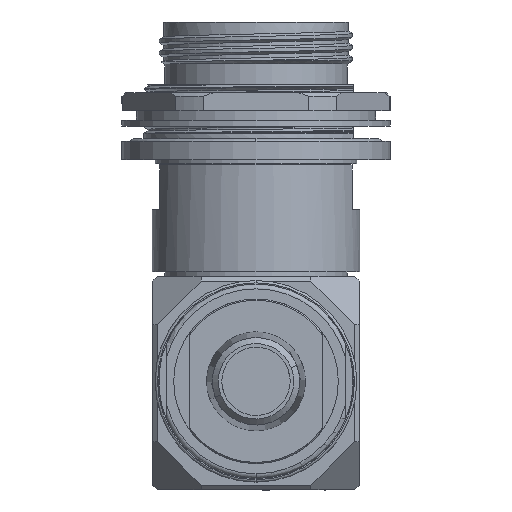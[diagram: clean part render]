
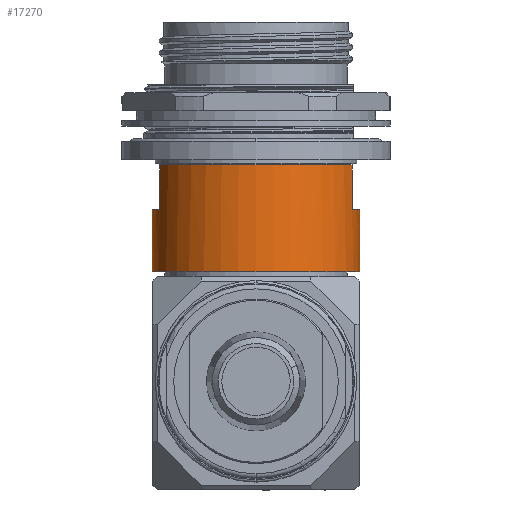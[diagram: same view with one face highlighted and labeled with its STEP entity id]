
A CAD part, front view. The second image highlights one B-rep face of the part: STEP entity #17270.
In plain terms, the highlighted cylindrical face has radius 22.035 mm (diameter 44.069 mm), a partial arc.
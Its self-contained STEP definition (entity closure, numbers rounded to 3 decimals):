
#843 = EDGE_CURVE ( 'NONE', #7887, #9095, #7117, .T. ) ;
#971 = ORIENTED_EDGE ( 'NONE', *, *, #9225, .F. ) ;
#1042 = CARTESIAN_POINT ( 'NONE',  ( 0., 0., -30.328 ) ) ;
#1265 = CARTESIAN_POINT ( 'NONE',  ( 0., 0., -30.328 ) ) ;
#1470 = ORIENTED_EDGE ( 'NONE', *, *, #10207, .F. ) ;
#2229 = VECTOR ( 'NONE', #13973, 1000. ) ;
#2565 = DIRECTION ( 'NONE',  ( 1., 0., 0. ) ) ;
#2791 = AXIS2_PLACEMENT_3D ( 'NONE', #1042, #13564, #4334 ) ;
#2920 = FACE_OUTER_BOUND ( 'NONE', #18252, .T. ) ;
#3435 = DIRECTION ( 'NONE',  ( 1., 0., 0. ) ) ;
#3872 = VERTEX_POINT ( 'NONE', #8514 ) ;
#3906 = ORIENTED_EDGE ( 'NONE', *, *, #843, .T. ) ;
#3964 = LINE ( 'NONE', #11596, #18038 ) ;
#4334 = DIRECTION ( 'NONE',  ( 1., 0., 0. ) ) ;
#4844 = CARTESIAN_POINT ( 'NONE',  ( 20.383, -8.369, -30.328 ) ) ;
#5037 = EDGE_CURVE ( 'NONE', #5049, #16188, #16886, .T. ) ;
#5049 = VERTEX_POINT ( 'NONE', #6055 ) ;
#5102 = VERTEX_POINT ( 'NONE', #13891 ) ;
#5464 = DIRECTION ( 'NONE',  ( 0., 0., -1. ) ) ;
#6055 = CARTESIAN_POINT ( 'NONE',  ( -22.035, 0., -39.853 ) ) ;
#6140 = AXIS2_PLACEMENT_3D ( 'NONE', #1265, #8594, #2565 ) ;
#6336 = LINE ( 'NONE', #14080, #2229 ) ;
#7117 = CIRCLE ( 'NONE', #6140, 22.035 ) ;
#7672 = CARTESIAN_POINT ( 'NONE',  ( -22.035, 0., -30.328 ) ) ;
#7887 = VERTEX_POINT ( 'NONE', #4844 ) ;
#8130 = AXIS2_PLACEMENT_3D ( 'NONE', #15052, #18335, #16835 ) ;
#8514 = CARTESIAN_POINT ( 'NONE',  ( 22.035, 0., -39.853 ) ) ;
#8594 = DIRECTION ( 'NONE',  ( 0., 0., -1. ) ) ;
#9095 = VERTEX_POINT ( 'NONE', #14317 ) ;
#9225 = EDGE_CURVE ( 'NONE', #3872, #5102, #13287, .T. ) ;
#9290 = EDGE_CURVE ( 'NONE', #15747, #9095, #3964, .T. ) ;
#9329 = ORIENTED_EDGE ( 'NONE', *, *, #5037, .T. ) ;
#9613 = CARTESIAN_POINT ( 'NONE',  ( 20.383, -8.369, -39.853 ) ) ;
#9667 = DIRECTION ( 'NONE',  ( 0., 0., 1. ) ) ;
#9766 = CARTESIAN_POINT ( 'NONE',  ( 0., 0., -39.853 ) ) ;
#10207 = EDGE_CURVE ( 'NONE', #5049, #15747, #13554, .T. ) ;
#11026 = DIRECTION ( 'NONE',  ( 0., 0., -1. ) ) ;
#11085 = VERTEX_POINT ( 'NONE', #9613 ) ;
#11231 = DIRECTION ( 'NONE',  ( 1., 0., 0. ) ) ;
#11257 = CARTESIAN_POINT ( 'NONE',  ( -20.384, -8.369, -39.853 ) ) ;
#11596 = CARTESIAN_POINT ( 'NONE',  ( -20.383, -8.369, -30.328 ) ) ;
#12239 = ORIENTED_EDGE ( 'NONE', *, *, #14564, .F. ) ;
#13068 = AXIS2_PLACEMENT_3D ( 'NONE', #9766, #9667, #3435 ) ;
#13099 = EDGE_CURVE ( 'NONE', #7887, #11085, #6336, .T. ) ;
#13287 = LINE ( 'NONE', #16301, #14544 ) ;
#13554 = CIRCLE ( 'NONE', #8130, 22.035 ) ;
#13564 = DIRECTION ( 'NONE',  ( 0., 0., -1. ) ) ;
#13891 = CARTESIAN_POINT ( 'NONE',  ( 22.035, 0., -53.01 ) ) ;
#13973 = DIRECTION ( 'NONE',  ( 0., 0., -1. ) ) ;
#14080 = CARTESIAN_POINT ( 'NONE',  ( 20.383, -8.369, -30.328 ) ) ;
#14317 = CARTESIAN_POINT ( 'NONE',  ( -20.384, -8.369, -30.328 ) ) ;
#14339 = CARTESIAN_POINT ( 'NONE',  ( 0., 0., -53.01 ) ) ;
#14544 = VECTOR ( 'NONE', #5464, 1000. ) ;
#14564 = EDGE_CURVE ( 'NONE', #11085, #3872, #19454, .T. ) ;
#15052 = CARTESIAN_POINT ( 'NONE',  ( 0., 0., -39.853 ) ) ;
#15363 = VECTOR ( 'NONE', #16790, 1000. ) ;
#15747 = VERTEX_POINT ( 'NONE', #11257 ) ;
#16188 = VERTEX_POINT ( 'NONE', #19846 ) ;
#16242 = CIRCLE ( 'NONE', #16866, 22.035 ) ;
#16301 = CARTESIAN_POINT ( 'NONE',  ( 22.035, 0., -30.328 ) ) ;
#16517 = ORIENTED_EDGE ( 'NONE', *, *, #13099, .F. ) ;
#16790 = DIRECTION ( 'NONE',  ( 0., 0., -1. ) ) ;
#16835 = DIRECTION ( 'NONE',  ( 0., 1., 0. ) ) ;
#16866 = AXIS2_PLACEMENT_3D ( 'NONE', #14339, #11026, #11231 ) ;
#16886 = LINE ( 'NONE', #7672, #15363 ) ;
#17189 = ORIENTED_EDGE ( 'NONE', *, *, #19624, .F. ) ;
#17270 = ADVANCED_FACE ( 'NONE', ( #2920 ), #19480, .T. ) ;
#17990 = DIRECTION ( 'NONE',  ( 0., 0., 1. ) ) ;
#18038 = VECTOR ( 'NONE', #17990, 1000. ) ;
#18252 = EDGE_LOOP ( 'NONE', ( #1470, #9329, #17189, #971, #12239, #16517, #3906, #18705 ) ) ;
#18335 = DIRECTION ( 'NONE',  ( 0., 0., 1. ) ) ;
#18705 = ORIENTED_EDGE ( 'NONE', *, *, #9290, .F. ) ;
#19454 = CIRCLE ( 'NONE', #13068, 22.035 ) ;
#19480 = CYLINDRICAL_SURFACE ( 'NONE', #2791, 22.035 ) ;
#19624 = EDGE_CURVE ( 'NONE', #5102, #16188, #16242, .T. ) ;
#19846 = CARTESIAN_POINT ( 'NONE',  ( -22.035, 0., -53.01 ) ) ;
